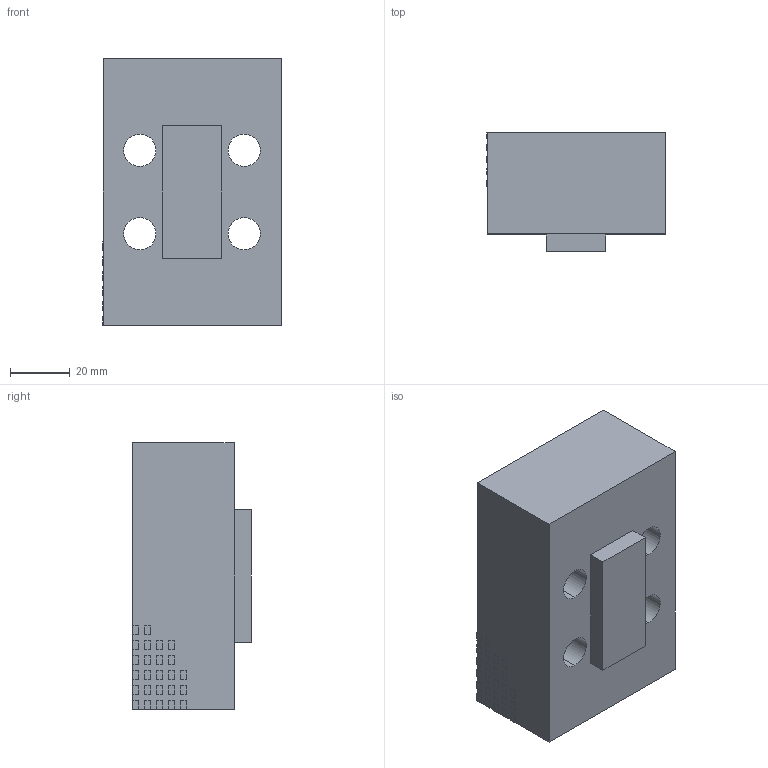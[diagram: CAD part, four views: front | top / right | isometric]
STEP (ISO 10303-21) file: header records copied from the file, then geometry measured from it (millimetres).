
FILE_DESCRIPTION (( 'STEP AP203' ), '1' );
FILE_NAME ('6921674004740.STEP', '2008-12-15T08:45:40', ( ' ' ), ( '' ), 'SwSTEP 2.0', 'SolidWorks 2008', '' );
FILE_SCHEMA (( 'CONFIG_CONTROL_DESIGN' ));
Length unit declared in the file: millimetre
Products named in the file (2): 6921674004740_Kundenmodell; 6921674004740
Assembly tree (1 placements, depth 2):
  6921674004740
    6921674004740_Kundenmodell
Bounding box: 60 x 39.8 x 89.5 mm (x, y, z)
Volume: 165256.5 mm3; surface area: 27673.5 mm2
Topology: 1 solids, 1 shells, 163 faces, 411 edges, 269 vertices
Faces by surface type: plane 131, cylinder 26, cone 6
Entity records: 4999 total; most frequent: CARTESIAN_POINT 841, ORIENTED_EDGE 810, DIRECTION 791, EDGE_CURVE 405, VECTOR 353, LINE 353, VERTEX_POINT 269, AXIS2_PLACEMENT_3D 219
